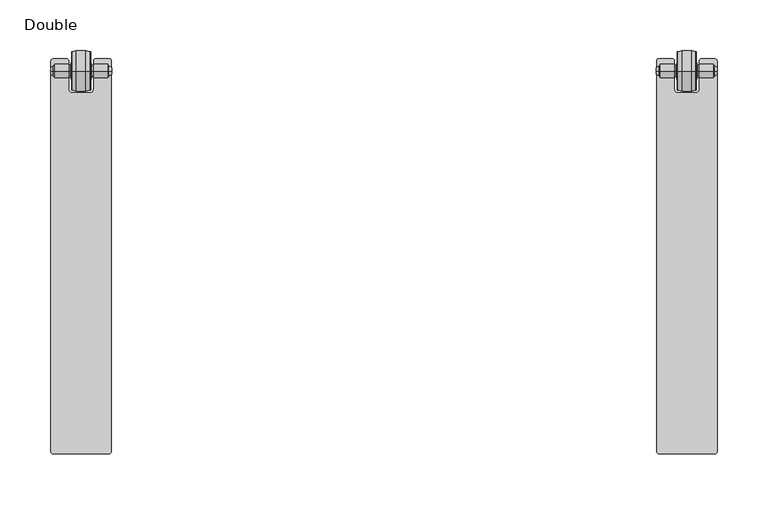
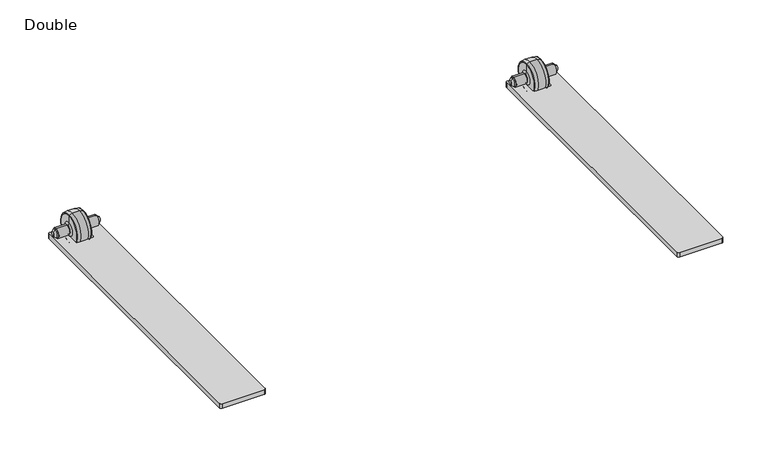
"""IFC4 building model written with IfcOpenShell, lengths in millimetres: furniture geometry, SmithSystem_AM_Seating_Education_Flowform_LearnLounge_MobileKit_Double : Double."""

from ifc_helpers import new_model, si_unit, point, frame, frame_2d, origin, place, context, project, spatial, polyline, circle_curve, ellipse_curve, trimmed, segment, composite_curve, outline, extrude, source, transform, mapped, element, save
from ifc_brep_helpers import plane_surface, cylinder_surface, revolved_surface, advanced_brep


def double_ea325dfb(model_context):
    return source(origin(), model_context, "Body", "SolidModel", [
        advanced_brep(
        [(-268.536693, 243.1222592, 19.404882), (-268.536693, 243.1222592, 25.6152221), (-268.536693, 243.1222592, 22.510052), (-271.2716898, 243.1222592, 17.3341849), (-271.2716898, 243.1222592, 27.6859191), (-272.5455704, 243.1222592, 17.0165708), (-272.5455704, 243.1222592, 28.0035332), (-272.5455704, 243.1222592, 16.0005885), (-272.5455704, 243.1222592, 29.0195155), (-286.2011776, 243.1222592, 16.0005885), (-286.2011776, 243.1222592, 29.0195155), (-286.2011776, 243.1222592, 17.0204517), (-286.2011776, 243.1222592, 27.9996523), (-288.0341036, 243.1222592, 17.0204517), (-288.0341036, 243.1222592, 27.9996523), (-289.0511521, 243.1222592, 13.367798), (-289.0511521, 243.1222592, 31.652306), (-289.0511521, 243.1222592, 4.1761693), (-289.0511521, 243.1222592, 40.8439347), (-289.7569906, 243.1222592, 3.2868443), (-289.7569906, 243.1222592, 41.7332597), (-293.8012013, 243.1222592, 2.3439843), (-293.8012013, 243.1222592, 42.6761197), (-303.3012512, 243.1222592, 2.3439843), (-303.3012512, 243.1222592, 42.6761197), (-307.345462, 243.1222592, 3.2868443), (-307.345462, 243.1222592, 41.7332597), (-308.0513005, 243.1222592, 4.1761693), (-308.0513005, 243.1222592, 40.8439347), (-308.0513005, 243.1222592, 13.367798), (-308.0513005, 243.1222592, 31.652306), (-309.0683489, 243.1222592, 17.0204517), (-309.0683489, 243.1222592, 27.9996523), (-310.9012749, 243.1222592, 17.0204517), (-310.9012749, 243.1222592, 27.9996523), (-310.9012749, 243.1222592, 16.0005885), (-310.9012749, 243.1222592, 29.0195155), (-324.5568821, 243.1222592, 16.0005885), (-324.5568821, 243.1222592, 29.0195155), (-324.5568821, 243.1222592, 17.0165708), (-324.5568821, 243.1222592, 28.0035332), (-325.8307627, 243.1222592, 17.3341849), (-325.8307627, 243.1222592, 27.6859191), (-328.5657595, 243.1222592, 19.404882), (-328.5657595, 243.1222592, 25.6152221), (-328.5657595, 243.1222592, 22.510052)],
        [
            (0, 1, circle_curve(frame((-268.536693, 243.1222592, 22.510052), z_axis=(1.0, 0.0, 0.0), x_axis=(0.0, 0.0, 1.0)), 3.1051701)),
            (1, 2),
            (2, 0),
            (1, 0, circle_curve(frame((-268.536693, 243.1222592, 22.510052), z_axis=(1.0, 0.0, 0.0), x_axis=(0.0, 0.0, 1.0)), 3.1051701)),
            (3, 4, circle_curve(frame((-271.2716898, 243.1222592, 22.510052), z_axis=(1.0, 0.0, 0.0), x_axis=(0.0, 0.0, 1.0)), 5.1758671)),
            (4, 1),
            (0, 3),
            (4, 3, circle_curve(frame((-271.2716898, 243.1222592, 22.510052), z_axis=(1.0, 0.0, 0.0), x_axis=(0.0, 0.0, 1.0)), 5.1758671)),
            (5, 6, circle_curve(frame((-272.5455704, 243.1222592, 22.510052), z_axis=(1.0, 0.0, 0.0), x_axis=(0.0, 0.0, 1.0)), 5.4934812)),
            (6, 4),
            (3, 5),
            (6, 5, circle_curve(frame((-272.5455704, 243.1222592, 22.510052), z_axis=(1.0, 0.0, 0.0), x_axis=(0.0, 0.0, 1.0)), 5.4934812)),
            (7, 8, circle_curve(frame((-272.5455704, 243.1222592, 22.510052), z_axis=(1.0, 0.0, 0.0), x_axis=(0.0, 0.0, 1.0)), 6.5094635)),
            (8, 6),
            (5, 7),
            (8, 7, circle_curve(frame((-272.5455704, 243.1222592, 22.510052), z_axis=(1.0, 0.0, 0.0), x_axis=(0.0, 0.0, 1.0)), 6.5094635)),
            (9, 10, circle_curve(frame((-286.2011776, 243.1222592, 22.510052), z_axis=(1.0, 0.0, 0.0), x_axis=(0.0, 0.0, 1.0)), 6.5094635)),
            (10, 8),
            (7, 9),
            (10, 9, circle_curve(frame((-286.2011776, 243.1222592, 22.510052), z_axis=(1.0, 0.0, 0.0), x_axis=(0.0, 0.0, 1.0)), 6.5094635)),
            (11, 12, circle_curve(frame((-286.2011776, 243.1222592, 22.510052), z_axis=(1.0, 0.0, 0.0), x_axis=(0.0, 0.0, 1.0)), 5.4896003)),
            (12, 10),
            (9, 11),
            (12, 11, circle_curve(frame((-286.2011776, 243.1222592, 22.510052), z_axis=(1.0, 0.0, 0.0), x_axis=(0.0, 0.0, 1.0)), 5.4896003)),
            (13, 14, circle_curve(frame((-288.0341036, 243.1222592, 22.510052), z_axis=(1.0, 0.0, 0.0), x_axis=(0.0, 0.0, 1.0)), 5.4896003)),
            (14, 12),
            (11, 13),
            (14, 13, circle_curve(frame((-288.0341036, 243.1222592, 22.510052), z_axis=(1.0, 0.0, 0.0), x_axis=(0.0, 0.0, 1.0)), 5.4896003)),
            (15, 16, circle_curve(frame((-289.0511521, 243.1222592, 22.510052), z_axis=(1.0, 0.0, 0.0), x_axis=(0.0, 0.0, 1.0)), 9.142254)),
            (16, 14),
            (13, 15),
            (16, 15, circle_curve(frame((-289.0511521, 243.1222592, 22.510052), z_axis=(1.0, 0.0, 0.0), x_axis=(0.0, 0.0, 1.0)), 9.142254)),
            (17, 18, circle_curve(frame((-289.0511521, 243.1222592, 22.510052), z_axis=(1.0, 0.0, 0.0), x_axis=(0.0, 0.0, 1.0)), 18.3338827)),
            (18, 16),
            (15, 17),
            (18, 17, circle_curve(frame((-289.0511521, 243.1222592, 22.510052), z_axis=(1.0, 0.0, 0.0), x_axis=(0.0, 0.0, 1.0)), 18.3338827)),
            (19, 20, circle_curve(frame((-289.7569906, 243.1222592, 22.510052), z_axis=(1.0, 0.0, 0.0), x_axis=(0.0, 0.0, 1.0)), 19.2232077)),
            (20, 18, circle_curve(frame((-289.9643262, 243.1222592, 40.8439347), z_axis=(0.0, 1.0, 0.0), x_axis=(1.0, 0.0, 0.0)), 0.9131741)),
            (17, 19, circle_curve(frame((-289.9643262, 243.1222592, 4.1761693), z_axis=(0.0, 1.0, 0.0), x_axis=(1.0, 0.0, 0.0)), 0.9131741)),
            (20, 19, circle_curve(frame((-289.7569906, 243.1222592, 22.510052), z_axis=(1.0, 0.0, 0.0), x_axis=(0.0, 0.0, 1.0)), 19.2232077)),
            (21, 22, circle_curve(frame((-293.8012013, 243.1222592, 22.510052), z_axis=(1.0, 0.0, 0.0), x_axis=(0.0, 0.0, 1.0)), 20.1660677)),
            (22, 20),
            (19, 21),
            (22, 21, circle_curve(frame((-293.8012013, 243.1222592, 22.510052), z_axis=(1.0, 0.0, 0.0), x_axis=(0.0, 0.0, 1.0)), 20.1660677)),
            (23, 24, circle_curve(frame((-303.3012512, 243.1222592, 22.510052), z_axis=(1.0, 0.0, 0.0), x_axis=(0.0, 0.0, 1.0)), 20.1660677)),
            (24, 22),
            (21, 23),
            (24, 23, circle_curve(frame((-303.3012512, 243.1222592, 22.510052), z_axis=(1.0, 0.0, 0.0), x_axis=(0.0, 0.0, 1.0)), 20.1660677)),
            (25, 26, circle_curve(frame((-307.345462, 243.1222592, 22.510052), z_axis=(1.0, 0.0, 0.0), x_axis=(0.0, 0.0, 1.0)), 19.2232077)),
            (26, 24),
            (23, 25),
            (26, 25, circle_curve(frame((-307.345462, 243.1222592, 22.510052), z_axis=(1.0, 0.0, 0.0), x_axis=(0.0, 0.0, 1.0)), 19.2232077)),
            (27, 28, circle_curve(frame((-308.0513005, 243.1222592, 22.510052), z_axis=(1.0, 0.0, 0.0), x_axis=(0.0, 0.0, 1.0)), 18.3338827)),
            (28, 26, circle_curve(frame((-307.1381263, 243.1222592, 40.8439347), z_axis=(0.0, 1.0, 0.0), x_axis=(1.0, 0.0, 0.0)), 0.9131741)),
            (25, 27, circle_curve(frame((-307.1381263, 243.1222592, 4.1761693), z_axis=(0.0, 1.0, 0.0), x_axis=(1.0, 0.0, 0.0)), 0.9131741)),
            (28, 27, circle_curve(frame((-308.0513005, 243.1222592, 22.510052), z_axis=(1.0, 0.0, 0.0), x_axis=(0.0, 0.0, 1.0)), 18.3338827)),
            (29, 30, circle_curve(frame((-308.0513005, 243.1222592, 22.510052), z_axis=(1.0, 0.0, 0.0), x_axis=(0.0, 0.0, 1.0)), 9.142254)),
            (30, 28),
            (27, 29),
            (30, 29, circle_curve(frame((-308.0513005, 243.1222592, 22.510052), z_axis=(1.0, 0.0, 0.0), x_axis=(0.0, 0.0, 1.0)), 9.142254)),
            (31, 32, circle_curve(frame((-309.0683489, 243.1222592, 22.510052), z_axis=(1.0, 0.0, 0.0), x_axis=(0.0, 0.0, 1.0)), 5.4896003)),
            (32, 30),
            (29, 31),
            (32, 31, circle_curve(frame((-309.0683489, 243.1222592, 22.510052), z_axis=(1.0, 0.0, 0.0), x_axis=(0.0, 0.0, 1.0)), 5.4896003)),
            (33, 34, circle_curve(frame((-310.9012749, 243.1222592, 22.510052), z_axis=(1.0, 0.0, 0.0), x_axis=(0.0, 0.0, 1.0)), 5.4896003)),
            (34, 32),
            (31, 33),
            (34, 33, circle_curve(frame((-310.9012749, 243.1222592, 22.510052), z_axis=(1.0, 0.0, 0.0), x_axis=(0.0, 0.0, 1.0)), 5.4896003)),
            (35, 36, circle_curve(frame((-310.9012749, 243.1222592, 22.510052), z_axis=(1.0, 0.0, 0.0), x_axis=(0.0, 0.0, 1.0)), 6.5094635)),
            (36, 34),
            (33, 35),
            (36, 35, circle_curve(frame((-310.9012749, 243.1222592, 22.510052), z_axis=(1.0, 0.0, 0.0), x_axis=(0.0, 0.0, 1.0)), 6.5094635)),
            (37, 38, circle_curve(frame((-324.5568821, 243.1222592, 22.510052), z_axis=(1.0, 0.0, 0.0), x_axis=(0.0, 0.0, 1.0)), 6.5094635)),
            (38, 36),
            (35, 37),
            (38, 37, circle_curve(frame((-324.5568821, 243.1222592, 22.510052), z_axis=(1.0, 0.0, 0.0), x_axis=(0.0, 0.0, 1.0)), 6.5094635)),
            (39, 40, circle_curve(frame((-324.5568821, 243.1222592, 22.510052), z_axis=(1.0, 0.0, 0.0), x_axis=(0.0, 0.0, 1.0)), 5.4934812)),
            (40, 38),
            (37, 39),
            (40, 39, circle_curve(frame((-324.5568821, 243.1222592, 22.510052), z_axis=(1.0, 0.0, 0.0), x_axis=(0.0, 0.0, 1.0)), 5.4934812)),
            (41, 42, circle_curve(frame((-325.8307627, 243.1222592, 22.510052), z_axis=(1.0, 0.0, 0.0), x_axis=(0.0, 0.0, 1.0)), 5.1758671)),
            (42, 40),
            (39, 41),
            (42, 41, circle_curve(frame((-325.8307627, 243.1222592, 22.510052), z_axis=(1.0, 0.0, 0.0), x_axis=(0.0, 0.0, 1.0)), 5.1758671)),
            (43, 44, circle_curve(frame((-328.5657595, 243.1222592, 22.510052), z_axis=(1.0, 0.0, 0.0), x_axis=(0.0, 0.0, 1.0)), 3.1051701)),
            (44, 42),
            (41, 43),
            (44, 43, circle_curve(frame((-328.5657595, 243.1222592, 22.510052), z_axis=(1.0, 0.0, 0.0), x_axis=(0.0, 0.0, 1.0)), 3.1051701)),
            (45, 44),
            (43, 45),
        ],
        [
            plane_surface(frame((-268.536693, 243.1222592, 22.510052), z_axis=(1.0, 0.0, 0.0), x_axis=(0.0, 0.0, 1.0))),
            revolved_surface(polyline([(-268.536693, 243.1222592, 25.6152221), (-271.2716898, 243.1222592, 27.6859191)]), (-161.4201897, 243.1222592, 22.510052), (-1.0, 0.0, 0.0)),
            revolved_surface(polyline([(-271.2716898, 243.1222592, 27.6859191), (-272.5455704, 243.1222592, 28.0035332)]), (-161.4201897, 243.1222592, 22.510052), (-1.0, 0.0, 0.0)),
            plane_surface(frame((-272.5455704, 243.1222592, 22.510052), z_axis=(1.0, 0.0, 0.0), x_axis=(0.0, 0.0, 1.0))),
            cylinder_surface(frame((-161.4201897, 243.1222592, 22.510052), z_axis=(-1.0, 0.0, 0.0), x_axis=(0.0, 0.0, 1.0)), 6.5094635),
            plane_surface(frame((-286.2011776, 243.1222592, 22.510052), z_axis=(-1.0, 0.0, 0.0), x_axis=(0.0, 0.0, 1.0))),
            cylinder_surface(frame((-161.4201897, 243.1222592, 22.510052), z_axis=(-1.0, 0.0, 0.0), x_axis=(0.0, 0.0, 1.0)), 5.4896003),
            revolved_surface(polyline([(-288.0341036, 243.1222592, 27.9996523), (-289.0511521, 243.1222592, 31.652306)]), (-161.4201897, 243.1222592, 22.510052), (-1.0, 0.0, 0.0)),
            plane_surface(frame((-289.0511521, 243.1222592, 22.510052), z_axis=(1.0, 0.0, 0.0), x_axis=(0.0, 0.0, 1.0))),
            revolved_surface(trimmed(ellipse_curve(frame((-289.9643262, 243.1222592, 40.8439347), z_axis=(0.0, -1.0, 0.0), x_axis=(1.0, 0.0, 0.0)), 0.9131741, 0.9131741), [point((-289.0511521, 243.1222592, 40.8439347))], [point((-289.7569906, 243.1222592, 41.7332597))], True, "CARTESIAN"), (-161.4201897, 243.1222592, 22.510052), (-1.0, 0.0, 0.0)),
            revolved_surface(polyline([(-289.7569906, 243.1222592, 41.7332597), (-293.8012013, 243.1222592, 42.6761197)]), (-161.4201897, 243.1222592, 22.510052), (-1.0, 0.0, 0.0)),
            cylinder_surface(frame((-161.4201897, 243.1222592, 22.510052), z_axis=(-1.0, 0.0, 0.0), x_axis=(0.0, 0.0, 1.0)), 20.1660677),
            revolved_surface(polyline([(-303.3012512, 243.1222592, 42.6761197), (-307.345462, 243.1222592, 41.7332597)]), (-161.4201897, 243.1222592, 22.510052), (-1.0, 0.0, 0.0)),
            revolved_surface(trimmed(ellipse_curve(frame((-307.1381263, 243.1222592, 40.8439347), z_axis=(0.0, -1.0, 0.0), x_axis=(1.0, 0.0, 0.0)), 0.9131741, 0.9131741), [point((-307.345462, 243.1222592, 41.7332597))], [point((-308.0513005, 243.1222592, 40.8439347))], True, "CARTESIAN"), (-161.4201897, 243.1222592, 22.510052), (-1.0, 0.0, 0.0)),
            plane_surface(frame((-308.0513005, 243.1222592, 22.510052), z_axis=(-1.0, 0.0, 0.0), x_axis=(0.0, 0.0, 1.0))),
            revolved_surface(polyline([(-308.0513005, 243.1222592, 31.652306), (-309.0683489, 243.1222592, 27.9996523)]), (-161.4201897, 243.1222592, 22.510052), (-1.0, 0.0, 0.0)),
            plane_surface(frame((-310.9012749, 243.1222592, 22.510052), z_axis=(1.0, 0.0, 0.0), x_axis=(0.0, 0.0, 1.0))),
            plane_surface(frame((-324.5568821, 243.1222592, 22.510052), z_axis=(-1.0, 0.0, 0.0), x_axis=(0.0, 0.0, 1.0))),
            revolved_surface(polyline([(-324.5568821, 243.1222592, 28.0035332), (-325.8307627, 243.1222592, 27.6859191)]), (-161.4201897, 243.1222592, 22.510052), (-1.0, 0.0, 0.0)),
            revolved_surface(polyline([(-325.8307627, 243.1222592, 27.6859191), (-328.5657595, 243.1222592, 25.6152221)]), (-161.4201897, 243.1222592, 22.510052), (-1.0, 0.0, 0.0)),
            plane_surface(frame((-328.5657595, 243.1222592, 22.510052), z_axis=(-1.0, 0.0, 0.0), x_axis=(0.0, 0.0, 1.0))),
        ],
        [
            (0, [[1, 2, 3]]),
            (0, [[4, -3, -2]]),
            (1, [[5, 6, -1, 7]]),
            (1, [[8, -7, -4, -6]]),
            (2, [[9, 10, -5, 11]]),
            (2, [[12, -11, -8, -10]]),
            (3, [[13, 14, -9, 15]]),
            (3, [[16, -15, -12, -14]]),
            (4, [[17, 18, -13, 19]]),
            (4, [[20, -19, -16, -18]]),
            (5, [[21, 22, -17, 23]]),
            (5, [[24, -23, -20, -22]]),
            (6, [[25, 26, -21, 27]]),
            (6, [[28, -27, -24, -26]]),
            (7, [[29, 30, -25, 31]]),
            (7, [[32, -31, -28, -30]]),
            (8, [[33, 34, -29, 35]]),
            (8, [[36, -35, -32, -34]]),
            (9, [[37, 38, -33, 39]]),
            (9, [[40, -39, -36, -38]]),
            (10, [[41, 42, -37, 43]]),
            (10, [[44, -43, -40, -42]]),
            (11, [[45, 46, -41, 47]]),
            (11, [[48, -47, -44, -46]]),
            (12, [[49, 50, -45, 51]]),
            (12, [[52, -51, -48, -50]]),
            (13, [[53, 54, -49, 55]]),
            (13, [[56, -55, -52, -54]]),
            (14, [[57, 58, -53, 59]]),
            (14, [[60, -59, -56, -58]]),
            (15, [[61, 62, -57, 63]]),
            (15, [[64, -63, -60, -62]]),
            (6, [[65, 66, -61, 67]]),
            (6, [[68, -67, -64, -66]]),
            (16, [[69, 70, -65, 71]]),
            (16, [[72, -71, -68, -70]]),
            (4, [[73, 74, -69, 75]]),
            (4, [[76, -75, -72, -74]]),
            (17, [[77, 78, -73, 79]]),
            (17, [[80, -79, -76, -78]]),
            (18, [[81, 82, -77, 83]]),
            (18, [[84, -83, -80, -82]]),
            (19, [[85, 86, -81, 87]]),
            (19, [[88, -87, -84, -86]]),
            (20, [[89, -85, 90]]),
            (20, [[-90, -88, -89]]),
        ],
    ),
        advanced_brep(
        [(328.5657595, 243.1222592, 19.404882), (328.5657595, 243.1222592, 25.6152221), (328.5657595, 243.1222592, 22.510052), (325.8307627, 243.1222592, 17.3341849), (325.8307627, 243.1222592, 27.6859191), (324.5568821, 243.1222592, 17.0165708), (324.5568821, 243.1222592, 28.0035332), (324.5568821, 243.1222592, 16.0005885), (324.5568821, 243.1222592, 29.0195155), (310.9012749, 243.1222592, 16.0005885), (310.9012749, 243.1222592, 29.0195155), (310.9012749, 243.1222592, 17.0204517), (310.9012749, 243.1222592, 27.9996523), (309.0683489, 243.1222592, 17.0204517), (309.0683489, 243.1222592, 27.9996523), (308.0513005, 243.1222592, 13.367798), (308.0513005, 243.1222592, 31.652306), (308.0513005, 243.1222592, 4.1761693), (308.0513005, 243.1222592, 40.8439347), (307.345462, 243.1222592, 3.2868443), (307.345462, 243.1222592, 41.7332597), (303.3012512, 243.1222592, 2.3439843), (303.3012512, 243.1222592, 42.6761197), (293.8012013, 243.1222592, 2.3439843), (293.8012013, 243.1222592, 42.6761197), (289.7569906, 243.1222592, 3.2868443), (289.7569906, 243.1222592, 41.7332597), (289.0511521, 243.1222592, 4.1761693), (289.0511521, 243.1222592, 40.8439347), (289.0511521, 243.1222592, 13.367798), (289.0511521, 243.1222592, 31.652306), (288.0341036, 243.1222592, 17.0204517), (288.0341036, 243.1222592, 27.9996523), (286.2011776, 243.1222592, 17.0204517), (286.2011776, 243.1222592, 27.9996523), (286.2011776, 243.1222592, 16.0005885), (286.2011776, 243.1222592, 29.0195155), (272.5455704, 243.1222592, 16.0005885), (272.5455704, 243.1222592, 29.0195155), (272.5455704, 243.1222592, 17.0165708), (272.5455704, 243.1222592, 28.0035332), (271.2716898, 243.1222592, 17.3341849), (271.2716898, 243.1222592, 27.6859191), (268.536693, 243.1222592, 19.404882), (268.536693, 243.1222592, 25.6152221), (268.536693, 243.1222592, 22.510052)],
        [
            (0, 1, circle_curve(frame((328.5657595, 243.1222592, 22.510052), z_axis=(1.0, 0.0, 0.0), x_axis=(0.0, 0.0, 1.0)), 3.1051701)),
            (1, 2),
            (2, 0),
            (1, 0, circle_curve(frame((328.5657595, 243.1222592, 22.510052), z_axis=(1.0, 0.0, 0.0), x_axis=(0.0, 0.0, 1.0)), 3.1051701)),
            (3, 4, circle_curve(frame((325.8307627, 243.1222592, 22.510052), z_axis=(1.0, 0.0, 0.0), x_axis=(0.0, 0.0, 1.0)), 5.1758671)),
            (4, 1),
            (0, 3),
            (4, 3, circle_curve(frame((325.8307627, 243.1222592, 22.510052), z_axis=(1.0, 0.0, 0.0), x_axis=(0.0, 0.0, 1.0)), 5.1758671)),
            (5, 6, circle_curve(frame((324.5568821, 243.1222592, 22.510052), z_axis=(1.0, 0.0, 0.0), x_axis=(0.0, 0.0, 1.0)), 5.4934812)),
            (6, 4),
            (3, 5),
            (6, 5, circle_curve(frame((324.5568821, 243.1222592, 22.510052), z_axis=(1.0, 0.0, 0.0), x_axis=(0.0, 0.0, 1.0)), 5.4934812)),
            (7, 8, circle_curve(frame((324.5568821, 243.1222592, 22.510052), z_axis=(1.0, 0.0, 0.0), x_axis=(0.0, 0.0, 1.0)), 6.5094635)),
            (8, 6),
            (5, 7),
            (8, 7, circle_curve(frame((324.5568821, 243.1222592, 22.510052), z_axis=(1.0, 0.0, 0.0), x_axis=(0.0, 0.0, 1.0)), 6.5094635)),
            (9, 10, circle_curve(frame((310.9012749, 243.1222592, 22.510052), z_axis=(1.0, 0.0, 0.0), x_axis=(0.0, 0.0, 1.0)), 6.5094635)),
            (10, 8),
            (7, 9),
            (10, 9, circle_curve(frame((310.9012749, 243.1222592, 22.510052), z_axis=(1.0, 0.0, 0.0), x_axis=(0.0, 0.0, 1.0)), 6.5094635)),
            (11, 12, circle_curve(frame((310.9012749, 243.1222592, 22.510052), z_axis=(1.0, 0.0, 0.0), x_axis=(0.0, 0.0, 1.0)), 5.4896003)),
            (12, 10),
            (9, 11),
            (12, 11, circle_curve(frame((310.9012749, 243.1222592, 22.510052), z_axis=(1.0, 0.0, 0.0), x_axis=(0.0, 0.0, 1.0)), 5.4896003)),
            (13, 14, circle_curve(frame((309.0683489, 243.1222592, 22.510052), z_axis=(1.0, 0.0, 0.0), x_axis=(0.0, 0.0, 1.0)), 5.4896003)),
            (14, 12),
            (11, 13),
            (14, 13, circle_curve(frame((309.0683489, 243.1222592, 22.510052), z_axis=(1.0, 0.0, 0.0), x_axis=(0.0, 0.0, 1.0)), 5.4896003)),
            (15, 16, circle_curve(frame((308.0513005, 243.1222592, 22.510052), z_axis=(1.0, 0.0, 0.0), x_axis=(0.0, 0.0, 1.0)), 9.142254)),
            (16, 14),
            (13, 15),
            (16, 15, circle_curve(frame((308.0513005, 243.1222592, 22.510052), z_axis=(1.0, 0.0, 0.0), x_axis=(0.0, 0.0, 1.0)), 9.142254)),
            (17, 18, circle_curve(frame((308.0513005, 243.1222592, 22.510052), z_axis=(1.0, 0.0, 0.0), x_axis=(0.0, 0.0, 1.0)), 18.3338827)),
            (18, 16),
            (15, 17),
            (18, 17, circle_curve(frame((308.0513005, 243.1222592, 22.510052), z_axis=(1.0, 0.0, 0.0), x_axis=(0.0, 0.0, 1.0)), 18.3338827)),
            (19, 20, circle_curve(frame((307.345462, 243.1222592, 22.510052), z_axis=(1.0, 0.0, 0.0), x_axis=(0.0, 0.0, 1.0)), 19.2232077)),
            (20, 18, circle_curve(frame((307.1381263, 243.1222592, 40.8439347), z_axis=(0.0, 1.0, 0.0), x_axis=(1.0, 0.0, 0.0)), 0.9131741)),
            (17, 19, circle_curve(frame((307.1381263, 243.1222592, 4.1761693), z_axis=(0.0, 1.0, 0.0), x_axis=(1.0, 0.0, 0.0)), 0.9131741)),
            (20, 19, circle_curve(frame((307.345462, 243.1222592, 22.510052), z_axis=(1.0, 0.0, 0.0), x_axis=(0.0, 0.0, 1.0)), 19.2232077)),
            (21, 22, circle_curve(frame((303.3012512, 243.1222592, 22.510052), z_axis=(1.0, 0.0, 0.0), x_axis=(0.0, 0.0, 1.0)), 20.1660677)),
            (22, 20),
            (19, 21),
            (22, 21, circle_curve(frame((303.3012512, 243.1222592, 22.510052), z_axis=(1.0, 0.0, 0.0), x_axis=(0.0, 0.0, 1.0)), 20.1660677)),
            (23, 24, circle_curve(frame((293.8012013, 243.1222592, 22.510052), z_axis=(1.0, 0.0, 0.0), x_axis=(0.0, 0.0, 1.0)), 20.1660677)),
            (24, 22),
            (21, 23),
            (24, 23, circle_curve(frame((293.8012013, 243.1222592, 22.510052), z_axis=(1.0, 0.0, 0.0), x_axis=(0.0, 0.0, 1.0)), 20.1660677)),
            (25, 26, circle_curve(frame((289.7569906, 243.1222592, 22.510052), z_axis=(1.0, 0.0, 0.0), x_axis=(0.0, 0.0, 1.0)), 19.2232077)),
            (26, 24),
            (23, 25),
            (26, 25, circle_curve(frame((289.7569906, 243.1222592, 22.510052), z_axis=(1.0, 0.0, 0.0), x_axis=(0.0, 0.0, 1.0)), 19.2232077)),
            (27, 28, circle_curve(frame((289.0511521, 243.1222592, 22.510052), z_axis=(1.0, 0.0, 0.0), x_axis=(0.0, 0.0, 1.0)), 18.3338827)),
            (28, 26, circle_curve(frame((289.9643262, 243.1222592, 40.8439347), z_axis=(0.0, 1.0, 0.0), x_axis=(1.0, 0.0, 0.0)), 0.9131741)),
            (25, 27, circle_curve(frame((289.9643262, 243.1222592, 4.1761693), z_axis=(0.0, 1.0, 0.0), x_axis=(1.0, 0.0, 0.0)), 0.9131741)),
            (28, 27, circle_curve(frame((289.0511521, 243.1222592, 22.510052), z_axis=(1.0, 0.0, 0.0), x_axis=(0.0, 0.0, 1.0)), 18.3338827)),
            (29, 30, circle_curve(frame((289.0511521, 243.1222592, 22.510052), z_axis=(1.0, 0.0, 0.0), x_axis=(0.0, 0.0, 1.0)), 9.142254)),
            (30, 28),
            (27, 29),
            (30, 29, circle_curve(frame((289.0511521, 243.1222592, 22.510052), z_axis=(1.0, 0.0, 0.0), x_axis=(0.0, 0.0, 1.0)), 9.142254)),
            (31, 32, circle_curve(frame((288.0341036, 243.1222592, 22.510052), z_axis=(1.0, 0.0, 0.0), x_axis=(0.0, 0.0, 1.0)), 5.4896003)),
            (32, 30),
            (29, 31),
            (32, 31, circle_curve(frame((288.0341036, 243.1222592, 22.510052), z_axis=(1.0, 0.0, 0.0), x_axis=(0.0, 0.0, 1.0)), 5.4896003)),
            (33, 34, circle_curve(frame((286.2011776, 243.1222592, 22.510052), z_axis=(1.0, 0.0, 0.0), x_axis=(0.0, 0.0, 1.0)), 5.4896003)),
            (34, 32),
            (31, 33),
            (34, 33, circle_curve(frame((286.2011776, 243.1222592, 22.510052), z_axis=(1.0, 0.0, 0.0), x_axis=(0.0, 0.0, 1.0)), 5.4896003)),
            (35, 36, circle_curve(frame((286.2011776, 243.1222592, 22.510052), z_axis=(1.0, 0.0, 0.0), x_axis=(0.0, 0.0, 1.0)), 6.5094635)),
            (36, 34),
            (33, 35),
            (36, 35, circle_curve(frame((286.2011776, 243.1222592, 22.510052), z_axis=(1.0, 0.0, 0.0), x_axis=(0.0, 0.0, 1.0)), 6.5094635)),
            (37, 38, circle_curve(frame((272.5455704, 243.1222592, 22.510052), z_axis=(1.0, 0.0, 0.0), x_axis=(0.0, 0.0, 1.0)), 6.5094635)),
            (38, 36),
            (35, 37),
            (38, 37, circle_curve(frame((272.5455704, 243.1222592, 22.510052), z_axis=(1.0, 0.0, 0.0), x_axis=(0.0, 0.0, 1.0)), 6.5094635)),
            (39, 40, circle_curve(frame((272.5455704, 243.1222592, 22.510052), z_axis=(1.0, 0.0, 0.0), x_axis=(0.0, 0.0, 1.0)), 5.4934812)),
            (40, 38),
            (37, 39),
            (40, 39, circle_curve(frame((272.5455704, 243.1222592, 22.510052), z_axis=(1.0, 0.0, 0.0), x_axis=(0.0, 0.0, 1.0)), 5.4934812)),
            (41, 42, circle_curve(frame((271.2716898, 243.1222592, 22.510052), z_axis=(1.0, 0.0, 0.0), x_axis=(0.0, 0.0, 1.0)), 5.1758671)),
            (42, 40),
            (39, 41),
            (42, 41, circle_curve(frame((271.2716898, 243.1222592, 22.510052), z_axis=(1.0, 0.0, 0.0), x_axis=(0.0, 0.0, 1.0)), 5.1758671)),
            (43, 44, circle_curve(frame((268.536693, 243.1222592, 22.510052), z_axis=(1.0, 0.0, 0.0), x_axis=(0.0, 0.0, 1.0)), 3.1051701)),
            (44, 42),
            (41, 43),
            (44, 43, circle_curve(frame((268.536693, 243.1222592, 22.510052), z_axis=(1.0, 0.0, 0.0), x_axis=(0.0, 0.0, 1.0)), 3.1051701)),
            (45, 44),
            (43, 45),
        ],
        [
            plane_surface(frame((328.5657595, 243.1222592, 22.510052), z_axis=(1.0, 0.0, 0.0), x_axis=(0.0, 0.0, 1.0))),
            revolved_surface(polyline([(328.5657595, 243.1222592, 25.6152221), (325.8307627, 243.1222592, 27.6859191)]), (-161.4201897, 243.1222592, 22.510052), (-1.0, 0.0, 0.0)),
            revolved_surface(polyline([(325.8307627, 243.1222592, 27.6859191), (324.5568821, 243.1222592, 28.0035332)]), (-161.4201897, 243.1222592, 22.510052), (-1.0, 0.0, 0.0)),
            plane_surface(frame((324.5568821, 243.1222592, 22.510052), z_axis=(1.0, 0.0, 0.0), x_axis=(0.0, 0.0, 1.0))),
            cylinder_surface(frame((-161.4201897, 243.1222592, 22.510052), z_axis=(-1.0, 0.0, 0.0), x_axis=(0.0, 0.0, 1.0)), 6.5094635),
            plane_surface(frame((310.9012749, 243.1222592, 22.510052), z_axis=(-1.0, 0.0, 0.0), x_axis=(0.0, 0.0, 1.0))),
            cylinder_surface(frame((-161.4201897, 243.1222592, 22.510052), z_axis=(-1.0, 0.0, 0.0), x_axis=(0.0, 0.0, 1.0)), 5.4896003),
            revolved_surface(polyline([(309.0683489, 243.1222592, 27.9996523), (308.0513005, 243.1222592, 31.652306)]), (-161.4201897, 243.1222592, 22.510052), (-1.0, 0.0, 0.0)),
            plane_surface(frame((308.0513005, 243.1222592, 22.510052), z_axis=(1.0, 0.0, 0.0), x_axis=(0.0, 0.0, 1.0))),
            revolved_surface(trimmed(ellipse_curve(frame((307.1381263, 243.1222592, 40.8439347), z_axis=(0.0, -1.0, 0.0), x_axis=(1.0, 0.0, 0.0)), 0.9131741, 0.9131741), [point((308.0513005, 243.1222592, 40.8439347))], [point((307.345462, 243.1222592, 41.7332597))], True, "CARTESIAN"), (-161.4201897, 243.1222592, 22.510052), (-1.0, 0.0, 0.0)),
            revolved_surface(polyline([(307.345462, 243.1222592, 41.7332597), (303.3012512, 243.1222592, 42.6761197)]), (-161.4201897, 243.1222592, 22.510052), (-1.0, 0.0, 0.0)),
            cylinder_surface(frame((-161.4201897, 243.1222592, 22.510052), z_axis=(-1.0, 0.0, 0.0), x_axis=(0.0, 0.0, 1.0)), 20.1660677),
            revolved_surface(polyline([(293.8012013, 243.1222592, 42.6761197), (289.7569906, 243.1222592, 41.7332597)]), (-161.4201897, 243.1222592, 22.510052), (-1.0, 0.0, 0.0)),
            revolved_surface(trimmed(ellipse_curve(frame((289.9643262, 243.1222592, 40.8439347), z_axis=(0.0, -1.0, 0.0), x_axis=(1.0, 0.0, 0.0)), 0.9131741, 0.9131741), [point((289.7569906, 243.1222592, 41.7332597))], [point((289.0511521, 243.1222592, 40.8439347))], True, "CARTESIAN"), (-161.4201897, 243.1222592, 22.510052), (-1.0, 0.0, 0.0)),
            plane_surface(frame((289.0511521, 243.1222592, 22.510052), z_axis=(-1.0, 0.0, 0.0), x_axis=(0.0, 0.0, 1.0))),
            revolved_surface(polyline([(289.0511521, 243.1222592, 31.652306), (288.0341036, 243.1222592, 27.9996523)]), (-161.4201897, 243.1222592, 22.510052), (-1.0, 0.0, 0.0)),
            plane_surface(frame((286.2011776, 243.1222592, 22.510052), z_axis=(1.0, 0.0, 0.0), x_axis=(0.0, 0.0, 1.0))),
            plane_surface(frame((272.5455704, 243.1222592, 22.510052), z_axis=(-1.0, 0.0, 0.0), x_axis=(0.0, 0.0, 1.0))),
            revolved_surface(polyline([(272.5455704, 243.1222592, 28.0035332), (271.2716898, 243.1222592, 27.6859191)]), (-161.4201897, 243.1222592, 22.510052), (-1.0, 0.0, 0.0)),
            revolved_surface(polyline([(271.2716898, 243.1222592, 27.6859191), (268.536693, 243.1222592, 25.6152221)]), (-161.4201897, 243.1222592, 22.510052), (-1.0, 0.0, 0.0)),
            plane_surface(frame((268.536693, 243.1222592, 22.510052), z_axis=(-1.0, 0.0, 0.0), x_axis=(0.0, 0.0, 1.0))),
        ],
        [
            (0, [[1, 2, 3]]),
            (0, [[4, -3, -2]]),
            (1, [[5, 6, -1, 7]]),
            (1, [[8, -7, -4, -6]]),
            (2, [[9, 10, -5, 11]]),
            (2, [[12, -11, -8, -10]]),
            (3, [[13, 14, -9, 15]]),
            (3, [[16, -15, -12, -14]]),
            (4, [[17, 18, -13, 19]]),
            (4, [[20, -19, -16, -18]]),
            (5, [[21, 22, -17, 23]]),
            (5, [[24, -23, -20, -22]]),
            (6, [[25, 26, -21, 27]]),
            (6, [[28, -27, -24, -26]]),
            (7, [[29, 30, -25, 31]]),
            (7, [[32, -31, -28, -30]]),
            (8, [[33, 34, -29, 35]]),
            (8, [[36, -35, -32, -34]]),
            (9, [[37, 38, -33, 39]]),
            (9, [[40, -39, -36, -38]]),
            (10, [[41, 42, -37, 43]]),
            (10, [[44, -43, -40, -42]]),
            (11, [[45, 46, -41, 47]]),
            (11, [[48, -47, -44, -46]]),
            (12, [[49, 50, -45, 51]]),
            (12, [[52, -51, -48, -50]]),
            (13, [[53, 54, -49, 55]]),
            (13, [[56, -55, -52, -54]]),
            (14, [[57, 58, -53, 59]]),
            (14, [[60, -59, -56, -58]]),
            (15, [[61, 62, -57, 63]]),
            (15, [[64, -63, -60, -62]]),
            (6, [[65, 66, -61, 67]]),
            (6, [[68, -67, -64, -66]]),
            (16, [[69, 70, -65, 71]]),
            (16, [[72, -71, -68, -70]]),
            (4, [[73, 74, -69, 75]]),
            (4, [[76, -75, -72, -74]]),
            (17, [[77, 78, -73, 79]]),
            (17, [[80, -79, -76, -78]]),
            (18, [[81, 82, -77, 83]]),
            (18, [[84, -83, -80, -82]]),
            (19, [[85, 86, -81, 87]]),
            (19, [[88, -87, -84, -86]]),
            (20, [[89, -85, 90]]),
            (20, [[-90, -88, -89]]),
        ],
    ),
        extrude(outline(composite_curve([segment(trimmed(circle_curve(frame_2d((-325.7951961, 252.6506419)), 2.6162351), [point((-328.4114312, 252.6506419))], [point((-325.7951961, 255.266877))], False, "CARTESIAN"), True, "CONTINUOUS"), segment(polyline([(-325.7951961, 255.266877), (-313.3645736, 255.266877)]), True, "CONTINUOUS"), segment(trimmed(circle_curve(frame_2d((-313.3645736, 252.6270327)), 2.6398444), [point((-313.3645736, 255.266877))], [point((-310.7247292, 252.6270327))], False, "CARTESIAN"), True, "CONTINUOUS"), segment(polyline([(-310.7247292, 252.6270327), (-310.7247292, 224.4021706)]), True, "CONTINUOUS"), segment(trimmed(circle_curve(frame_2d((-308.2529893, 224.4021706)), 2.4717399), [point((-310.7247292, 224.4021706))], [point((-308.2529893, 221.9304307))], True, "CARTESIAN"), True, "CONTINUOUS"), segment(polyline([(-308.2529893, 221.9304307), (-288.9847368, 221.9304307)]), True, "CONTINUOUS"), segment(trimmed(circle_curve(frame_2d((-288.9847368, 224.5461283)), 2.6156976), [point((-288.9847368, 221.9304307))], [point((-286.3690392, 224.5461283))], True, "CARTESIAN"), True, "CONTINUOUS"), segment(polyline([(-286.3690392, 224.5461283), (-286.3690392, 252.8376943)]), True, "CONTINUOUS"), segment(trimmed(circle_curve(frame_2d((-283.9398566, 252.8376943)), 2.4291827), [point((-286.3690392, 252.8376943))], [point((-283.9398566, 255.266877))], False, "CARTESIAN"), True, "CONTINUOUS"), segment(polyline([(-283.9398566, 255.266877), (-271.3987847, 255.266877)]), True, "CONTINUOUS"), segment(trimmed(circle_curve(frame_2d((-271.3987847, 252.7628166)), 2.5040604), [point((-271.3987847, 255.266877))], [point((-268.8947243, 252.7628166))], False, "CARTESIAN"), True, "CONTINUOUS"), segment(polyline([(-268.8947243, 252.7628166), (-268.8947243, -132.2697442)]), True, "CONTINUOUS"), segment(trimmed(circle_curve(frame_2d((-271.4424323, -132.2697442)), 2.547708), [point((-268.8947243, -132.2697442))], [point((-271.4424323, -134.8174522))], False, "CARTESIAN"), True, "CONTINUOUS"), segment(polyline([(-271.4424323, -134.8174522), (-325.8907827, -134.8174522)]), True, "CONTINUOUS"), segment(trimmed(circle_curve(frame_2d((-325.8907827, -132.2774522)), 2.54), [point((-325.8907827, -134.8174522))], [point((-328.4114312, -132.5903915))], False, "CARTESIAN"), True, "CONTINUOUS"), segment(polyline([(-328.4114312, -132.5903915), (-328.4114312, 252.6506419)]), True, "CONTINUOUS")], self_intersect=False)), frame((0.0, 0.0, 10.1600641), z_axis=(0.0, 0.0, 1.0), x_axis=(1.0, 0.0, 0.0)), (0.0, 0.0, 1.0), 6.3754001),
        extrude(outline(composite_curve([segment(polyline([(328.4114312, 252.6506419), (328.4114312, -132.5903915)]), True, "CONTINUOUS"), segment(trimmed(circle_curve(frame_2d((325.8907827, -132.2774522)), 2.54), [point((328.4114312, -132.5903915))], [point((325.8907827, -134.8174522))], False, "CARTESIAN"), True, "CONTINUOUS"), segment(polyline([(325.8907827, -134.8174522), (271.4424323, -134.8174522)]), True, "CONTINUOUS"), segment(trimmed(circle_curve(frame_2d((271.4424323, -132.2697442)), 2.547708), [point((271.4424323, -134.8174522))], [point((268.8947243, -132.2697442))], False, "CARTESIAN"), True, "CONTINUOUS"), segment(polyline([(268.8947243, -132.2697442), (268.8947243, 252.7628166)]), True, "CONTINUOUS"), segment(trimmed(circle_curve(frame_2d((271.3987847, 252.7628166)), 2.5040604), [point((268.8947243, 252.7628166))], [point((271.3987847, 255.266877))], False, "CARTESIAN"), True, "CONTINUOUS"), segment(polyline([(271.3987847, 255.266877), (283.9398566, 255.266877)]), True, "CONTINUOUS"), segment(trimmed(circle_curve(frame_2d((283.9398566, 252.8376943)), 2.4291827), [point((283.9398566, 255.266877))], [point((286.3690392, 252.8376943))], False, "CARTESIAN"), True, "CONTINUOUS"), segment(polyline([(286.3690392, 252.8376943), (286.3690392, 224.5461283)]), True, "CONTINUOUS"), segment(trimmed(circle_curve(frame_2d((288.9847368, 224.5461283)), 2.6156976), [point((286.3690392, 224.5461283))], [point((288.9847368, 221.9304307))], True, "CARTESIAN"), True, "CONTINUOUS"), segment(polyline([(288.9847368, 221.9304307), (308.2529893, 221.9304307)]), True, "CONTINUOUS"), segment(trimmed(circle_curve(frame_2d((308.2529893, 224.4021706)), 2.4717399), [point((308.2529893, 221.9304307))], [point((310.7247292, 224.4021706))], True, "CARTESIAN"), True, "CONTINUOUS"), segment(polyline([(310.7247292, 224.4021706), (310.7247292, 252.6270327)]), True, "CONTINUOUS"), segment(trimmed(circle_curve(frame_2d((313.3645736, 252.6270327)), 2.6398444), [point((310.7247292, 252.6270327))], [point((313.3645736, 255.266877))], False, "CARTESIAN"), True, "CONTINUOUS"), segment(polyline([(313.3645736, 255.266877), (325.7951961, 255.266877)]), True, "CONTINUOUS"), segment(trimmed(circle_curve(frame_2d((325.7951961, 252.6506419)), 2.6162351), [point((325.7951961, 255.266877))], [point((328.4114312, 252.6506419))], False, "CARTESIAN"), True, "CONTINUOUS")], self_intersect=False)), frame((0.0, 0.0, 10.1600641), z_axis=(0.0, 0.0, 1.0), x_axis=(1.0, 0.0, 0.0)), (0.0, 0.0, 1.0), 6.3754001),
    ])


if __name__ == "__main__":
    model = new_model("IFC4")
    model_context = context("Model", 3, world=origin())
    ifc_project = project(units=[si_unit("LENGTHUNIT", "METRE", prefix="MILLI")], contexts=[model_context])
    site = spatial("IfcSite", under=ifc_project)
    building = spatial("IfcBuilding", under=site)
    placement = place(None, origin())
    double_shape = double_ea325dfb(model_context)
    element("IfcFurniture", 1, ObjectType="SmithSystem_AM_Seating_Education_Flowform_LearnLounge_MobileKit_Double : Double", at=placement, inside=building, context=model_context, shape_type="MappedRepresentation", body=[
        mapped(double_shape, transform((0.0, 0.0, 0.0), x_axis=(1.0, 0.0, 0.0), y_axis=(0.0, 1.0, 0.0), z_axis=(0.0, 0.0, 1.0))),
    ])
    save(model, "model.ifc")
